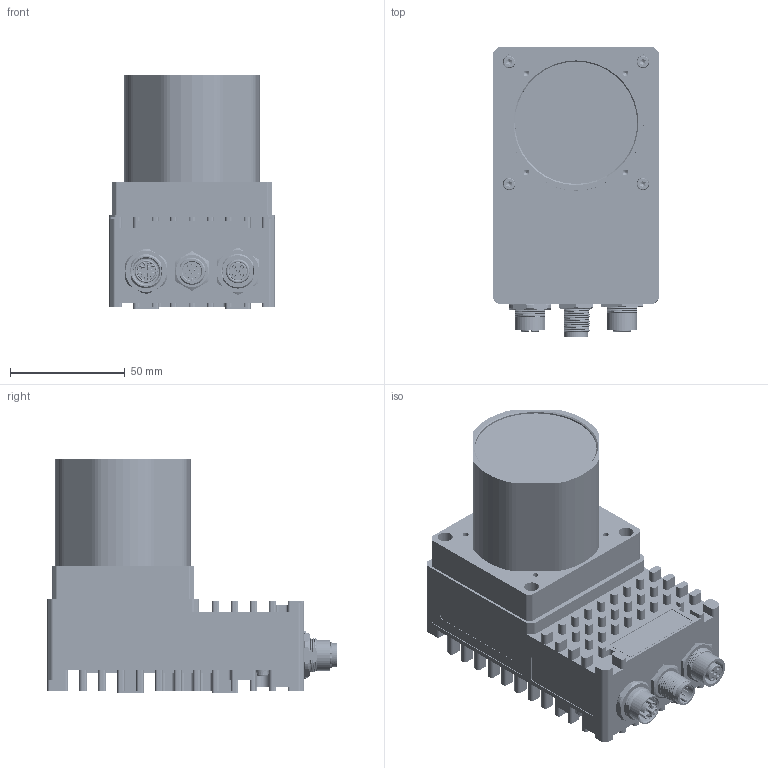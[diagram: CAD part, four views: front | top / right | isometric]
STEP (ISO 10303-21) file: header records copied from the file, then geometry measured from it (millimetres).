
FILE_DESCRIPTION (( 'STEP AP214' ), '1' );
FILE_NAME ('1GSC - Smart Cam - Main Assembly - short Lens Tube_2025-07-11.STEP', '2025-07-11T07:31:48', ( '' ), ( '' ), 'SwSTEP 2.0', 'SolidWorks 2023', '' );
FILE_SCHEMA (( 'AUTOMOTIVE_DESIGN' ));
Length unit declared in the file: millimetre
Products named in the file (1): 1GSC - Smart Cam - Main Assembly - short Lens Tube_2025-07-11
Bounding box: 72 x 126.05 x 102.3 mm (x, y, z)
Volume: 352655.8 mm3; surface area: 130704.6 mm2
Topology: 54 solids, 59 shells, 4002 faces, 10148 edges, 6617 vertices
Faces by surface type: cylinder 1899, plane 1511, cone 259, bspline 172, torus 137, sphere 24
Entity records: 217323 total; most frequent: CARTESIAN_POINT 75594, DIRECTION 20728, ORIENTED_EDGE 20140, EDGE_CURVE 10070, AXIS2_PLACEMENT_3D 7858, VERTEX_POINT 6605, LINE 5012, VECTOR 5012
